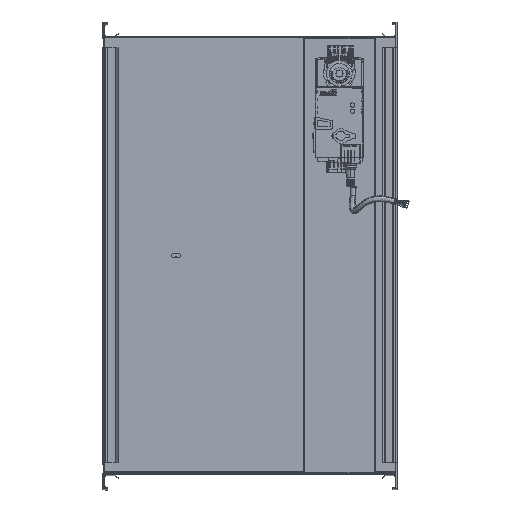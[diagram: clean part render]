
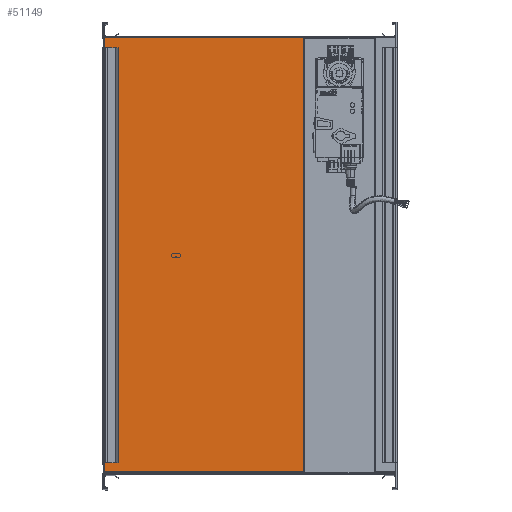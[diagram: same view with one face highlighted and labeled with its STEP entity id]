
A CAD part, top view. The second image highlights one B-rep face of the part: STEP entity #51149.
In plain terms, the highlighted planar face has unit normal (0, 0, 1).
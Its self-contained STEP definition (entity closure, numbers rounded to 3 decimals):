
#3578 = CARTESIAN_POINT ( 'NONE',  ( -244.423, -283.848, 1600. ) ) ;
#7025 = VERTEX_POINT ( 'NONE', #89433 ) ;
#7956 = DIRECTION ( 'NONE',  ( 0., 0., 1. ) ) ;
#9167 = VERTEX_POINT ( 'NONE', #35876 ) ;
#10358 = EDGE_CURVE ( 'NONE', #52812, #9167, #11461, .T. ) ;
#11461 = LINE ( 'NONE', #78381, #84947 ) ;
#12381 = DIRECTION ( 'NONE',  ( 1., 0., 0. ) ) ;
#12564 = CARTESIAN_POINT ( 'NONE',  ( -244.423, 312.152, 1600. ) ) ;
#13425 = AXIS2_PLACEMENT_3D ( 'NONE', #44307, #7956, #66296 ) ;
#15142 = FACE_OUTER_BOUND ( 'NONE', #33907, .T. ) ;
#16080 = PLANE ( 'NONE',  #13425 ) ;
#23411 = CARTESIAN_POINT ( 'NONE',  ( 29.107, -286.32, 1600. ) ) ;
#26459 = LINE ( 'NONE', #78532, #57852 ) ;
#31950 = EDGE_CURVE ( 'NONE', #7025, #34071, #26459, .T. ) ;
#33907 = EDGE_LOOP ( 'NONE', ( #76202, #37826, #83141, #55122 ) ) ;
#34071 = VERTEX_POINT ( 'NONE', #46338 ) ;
#35020 = EDGE_CURVE ( 'NONE', #9167, #34071, #37717, .T. ) ;
#35876 = CARTESIAN_POINT ( 'NONE',  ( 29.107, 312.152, 1600. ) ) ;
#37717 = LINE ( 'NONE', #23411, #51446 ) ;
#37826 = ORIENTED_EDGE ( 'NONE', *, *, #35020, .F. ) ;
#44307 = CARTESIAN_POINT ( 'NONE',  ( -244.423, -283.848, 1600. ) ) ;
#46338 = CARTESIAN_POINT ( 'NONE',  ( 29.107, -283.848, 1600. ) ) ;
#51149 = ADVANCED_FACE ( 'NONE', ( #15142 ), #16080, .T. ) ;
#51446 = VECTOR ( 'NONE', #53513, 1000. ) ;
#52812 = VERTEX_POINT ( 'NONE', #12564 ) ;
#53513 = DIRECTION ( 'NONE',  ( 0., -1., 0. ) ) ;
#54267 = LINE ( 'NONE', #3578, #65058 ) ;
#55122 = ORIENTED_EDGE ( 'NONE', *, *, #68897, .T. ) ;
#57852 = VECTOR ( 'NONE', #85240, 1000. ) ;
#65058 = VECTOR ( 'NONE', #67325, 1000. ) ;
#66296 = DIRECTION ( 'NONE',  ( 1., 0., 0. ) ) ;
#67325 = DIRECTION ( 'NONE',  ( 0., -1., 0. ) ) ;
#68897 = EDGE_CURVE ( 'NONE', #52812, #7025, #54267, .T. ) ;
#76202 = ORIENTED_EDGE ( 'NONE', *, *, #31950, .T. ) ;
#78381 = CARTESIAN_POINT ( 'NONE',  ( -244.423, 312.152, 1600. ) ) ;
#78532 = CARTESIAN_POINT ( 'NONE',  ( -244.423, -283.848, 1600. ) ) ;
#83141 = ORIENTED_EDGE ( 'NONE', *, *, #10358, .F. ) ;
#84947 = VECTOR ( 'NONE', #12381, 1000. ) ;
#85240 = DIRECTION ( 'NONE',  ( 1., 0., 0. ) ) ;
#89433 = CARTESIAN_POINT ( 'NONE',  ( -244.423, -283.848, 1600. ) ) ;
